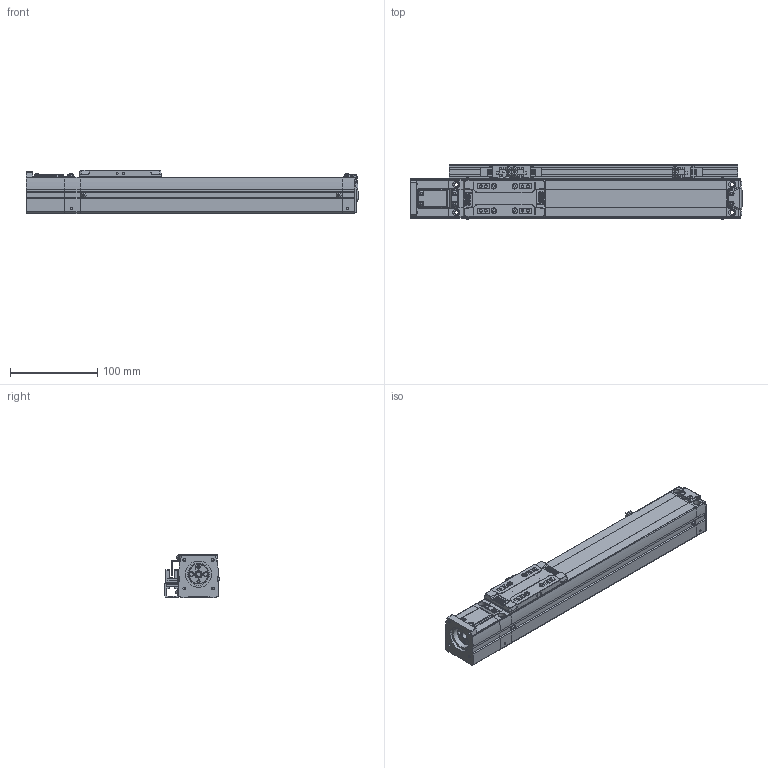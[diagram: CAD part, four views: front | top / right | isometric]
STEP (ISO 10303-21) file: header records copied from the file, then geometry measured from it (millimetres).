
FILE_DESCRIPTION(('STEP AP214'),'1');
FILE_NAME('Z:/Web/3D/SAN45/STP/SAN45ㅁㅁ-200S+3SL.stp','2012-06-15T04:46:25',(' '),(' '),'Spatial InterOp 3D',' ',' ');
FILE_SCHEMA(('automotive_design'));
Length unit declared in the file: metre
Products named in the file (86): SAN45__-200; BODY-SAN45; REAR-SAN45; RRCV-SAN45; BHCS M3 x 6L; BHCS M3 X 6L; FRONT-SAN45; SHAFT; RN8 x 0.75; SSFX-SAN45; SLIDE-SAN45; SLCV-IM45; FHCS M3 x 6L; ____92; S; MTHZ-SAN45; SDWB 22C-6-8; SDWB22C(2); SDWB22C(2)_1; SDWB22C(3); SDWB22C(3)_1; SDWB22C(3)_2; SDWB22C(3)_3; SDWB22C(3)_4; SDWB22C(3)_5; SDWB22C(3)_6; SDWB22C(3)_7; SDWB22C(3)_8; SDWB22C(3)_9; SDWB22C(3)_10; SDWB22C(3)_11; SDWB22C(3)_12; SDWB22C(3)_13; SDWB22C(3)_14; SDWB22C(3)_15; SDWB22C(4); SDWB22C(5); SDWB22C(5)_1; SDWB22C(5)_2; SDWB22C(5)_3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
Assembly tree (85 placements, depth 4):
  ____92
    SAN45__-200
      BODY-SAN45
      REAR-SAN45
        REAR-SAN45
        RRCV-SAN45
        BHCS M3 x 6L
        BHCS M3 X 6L
        BHCS M3 x 6L
        BHCS M3 x 6L
        BHCS M3 x 6L
        BHCS M3 x 6L
      FRONT-SAN45
        FRONT-SAN45
        SHAFT
        RN8 x 0.75
        SSFX-SAN45
        BHCS M3 x 6L
        BHCS M3 x 6L
        BHCS M3 x 6L
        BHCS M3 x 6L
      SLIDE-SAN45
        SLIDE-SAN45
        SLCV-IM45
        FHCS M3 x 6L
        FHCS M3 x 6L
        FHCS M3 x 6L
        FHCS M3 x 6L
    S
      MTHZ-SAN45
      SDWB 22C-6-8
        SDWB22C(2)
        SDWB22C(2)_1
        SDWB22C(3)
        SDWB22C(3)_1
        SDWB22C(3)_2
        SDWB22C(3)_3
        SDWB22C(3)_4
        SDWB22C(3)_5
        SDWB22C(3)_6
        SDWB22C(3)_7
        SDWB22C(3)_8
        SDWB22C(3)_9
        SDWB22C(3)_10
        SDWB22C(3)_11
        SDWB22C(3)_12
        SDWB22C(3)_13
        SDWB22C(3)_14
        SDWB22C(3)_15
        SDWB22C(4)
        SDWB22C(5)
        SDWB22C(5)_1
        SDWB22C(5)_2
        SDWB22C(5)_3
        SDWB22C(5)_4
        SDWB22C(5)_5
        SDWB22C(5)_6
        SDWB22C(5)_7
        SDWA22C(1)
        SDWA22C(1)
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Bounding box: 380.15 x 62.06 x 50 mm (x, y, z)
Volume: 731508 mm3; surface area: 178427.8 mm2
Topology: 74 solids, 74 shells, 2374 faces, 6039 edges, 3896 vertices
Faces by surface type: plane 1432, cylinder 657, cone 155, sphere 54, bspline 46, torus 27, extrusion 3
Full cylindrical faces by diameter (mm): 0.376 x2, 0.47 x1, 1.137 x2, 1.421 x1, 1.665 x4, 2.081 x2, 2.2 x4, 2.5 x45, 2.6 x14, 2.7 x2, 3 x10, 3.193 x4, 3.3 x8, 3.4 x4, 3.5 x16, 3.991 x2, 4.2 x7, 4.5 x28, 4.9 x2, 5 x13, 6 x9, 6.5 x2, 7 x1, 8 x9, 9 x1, 10.7 x2, 13 x1, 15 x1, 19 x1, 22.2 x3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
Entity records: 94158 total; most frequent: CARTESIAN_POINT 17026, DIRECTION 11913, ORIENTED_EDGE 11028, EDGE_CURVE 5514, AXIS2_PLACEMENT_3D 4150, VERTEX_POINT 3767, VECTOR 3613, LINE 3610
